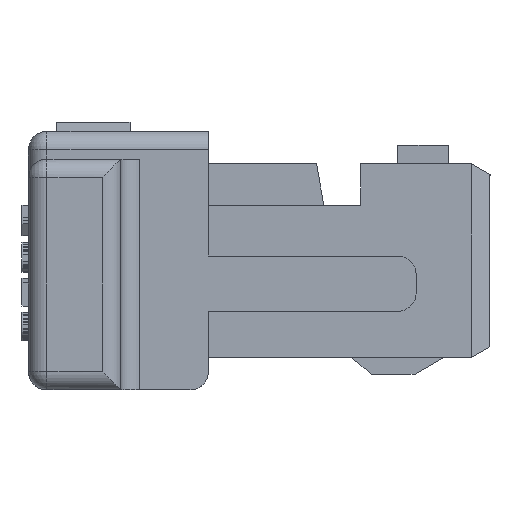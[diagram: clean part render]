
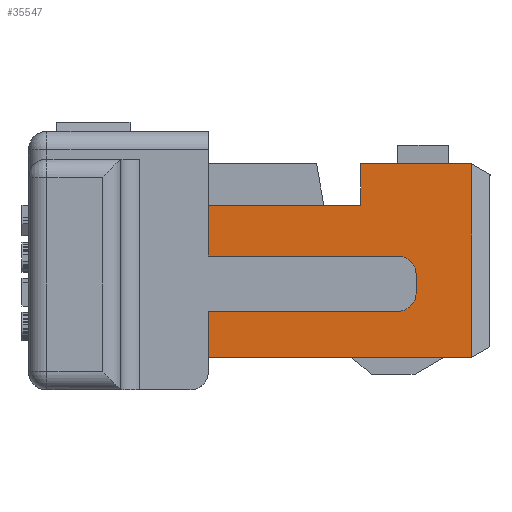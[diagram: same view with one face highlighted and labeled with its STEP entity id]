
A CAD part, left-side view. The second image highlights one B-rep face of the part: STEP entity #35547.
In plain terms, the highlighted planar face has unit normal (-1, 0, 0).
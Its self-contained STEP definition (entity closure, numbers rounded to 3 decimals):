
#8899=DIRECTION('',(0.,-1.,0.));
#8900=VECTOR('',#8899,1.65);
#8901=CARTESIAN_POINT('',(1.3,3.05,-0.9));
#8902=LINE('',#8901,#8900);
#8903=DIRECTION('',(0.,0.,1.));
#8904=VECTOR('',#8903,0.45);
#8905=CARTESIAN_POINT('',(1.3,1.4,-0.9));
#8906=LINE('',#8905,#8904);
#8907=DIRECTION('',(0.,-1.,0.));
#8908=VECTOR('',#8907,1.2);
#8909=CARTESIAN_POINT('',(1.3,1.4,-0.45));
#8910=LINE('',#8909,#8908);
#8911=DIRECTION('',(0.,0.,-1.));
#8912=VECTOR('',#8911,2.1);
#8913=CARTESIAN_POINT('',(1.3,0.2,-0.45));
#8914=LINE('',#8913,#8912);
#8915=DIRECTION('',(0.,1.,0.));
#8916=VECTOR('',#8915,2.85);
#8917=CARTESIAN_POINT('',(1.3,0.2,-2.55));
#8918=LINE('',#8917,#8916);
#8919=CARTESIAN_POINT('',(1.3,1.,-1.85));
#8920=DIRECTION('',(-1.,0.,0.));
#8921=DIRECTION('',(0.,0.,-1.));
#8922=AXIS2_PLACEMENT_3D('',#8919,#8920,#8921);
#8924=CARTESIAN_POINT('',(1.3,1.,-1.65));
#8925=DIRECTION('',(-1.,0.,0.));
#8926=DIRECTION('',(0.,-1.,0.));
#8927=AXIS2_PLACEMENT_3D('',#8924,#8925,#8926);
#8941=DIRECTION('',(0.,0.,-1.));
#8942=VECTOR('',#8941,0.55);
#8943=CARTESIAN_POINT('',(1.3,3.05,-0.9));
#8944=LINE('',#8943,#8942);
#9046=DIRECTION('',(0.,-1.,0.));
#9047=VECTOR('',#9046,2.05);
#9048=CARTESIAN_POINT('',(1.3,3.05,-1.45));
#9049=LINE('',#9048,#9047);
#9497=DIRECTION('',(0.,0.,-1.));
#9498=VECTOR('',#9497,0.5);
#9499=CARTESIAN_POINT('',(1.3,3.05,-2.05));
#9500=LINE('',#9499,#9498);
#9513=DIRECTION('',(0.,1.,0.));
#9514=VECTOR('',#9513,2.05);
#9515=CARTESIAN_POINT('',(1.3,1.,-2.05));
#9516=LINE('',#9515,#9514);
#9529=DIRECTION('',(0.,0.,-1.));
#9530=VECTOR('',#9529,0.2);
#9531=CARTESIAN_POINT('',(1.3,0.8,-1.65));
#9532=LINE('',#9531,#9530);
#16960=CARTESIAN_POINT('',(1.3,0.2,-2.55));
#16961=CARTESIAN_POINT('',(1.3,3.05,-2.55));
#16962=VERTEX_POINT('',#16960);
#16963=VERTEX_POINT('',#16961);
#17114=CARTESIAN_POINT('',(1.3,1.4,-0.9));
#17116=VERTEX_POINT('',#17114);
#17120=CARTESIAN_POINT('',(1.3,1.4,-0.45));
#17122=VERTEX_POINT('',#17120);
#17246=CARTESIAN_POINT('',(1.3,0.2,-0.45));
#17247=VERTEX_POINT('',#17246);
#17248=CARTESIAN_POINT('',(1.3,3.05,-0.9));
#17249=VERTEX_POINT('',#17248);
#17250=CARTESIAN_POINT('',(1.3,1.,-2.05));
#17251=CARTESIAN_POINT('',(1.3,0.8,-1.85));
#17252=VERTEX_POINT('',#17250);
#17253=VERTEX_POINT('',#17251);
#17254=CARTESIAN_POINT('',(1.3,0.8,-1.65));
#17255=CARTESIAN_POINT('',(1.3,1.,-1.45));
#17256=VERTEX_POINT('',#17254);
#17257=VERTEX_POINT('',#17255);
#17258=CARTESIAN_POINT('',(1.3,3.05,-1.45));
#17259=VERTEX_POINT('',#17258);
#17260=CARTESIAN_POINT('',(1.3,3.05,-2.05));
#17261=VERTEX_POINT('',#17260);
#35519=CARTESIAN_POINT('',(1.3,1.625,-1.5));
#35520=DIRECTION('',(1.,0.,0.));
#35521=DIRECTION('',(0.,1.,0.));
#35522=AXIS2_PLACEMENT_3D('',#35519,#35520,#35521);
#35523=PLANE('',#35522);
#35525=ORIENTED_EDGE('',*,*,#35524,.T.);
#35526=ORIENTED_EDGE('',*,*,#35509,.T.);
#35527=ORIENTED_EDGE('',*,*,#25650,.T.);
#35529=ORIENTED_EDGE('',*,*,#35528,.T.);
#35530=ORIENTED_EDGE('',*,*,#23075,.T.);
#35532=ORIENTED_EDGE('',*,*,#35531,.F.);
#35534=ORIENTED_EDGE('',*,*,#35533,.F.);
#35536=ORIENTED_EDGE('',*,*,#35535,.T.);
#35538=ORIENTED_EDGE('',*,*,#35537,.F.);
#35540=ORIENTED_EDGE('',*,*,#35539,.T.);
#35542=ORIENTED_EDGE('',*,*,#35541,.F.);
#35544=ORIENTED_EDGE('',*,*,#35543,.F.);
#35545=EDGE_LOOP('',(#35525,#35526,#35527,#35529,#35530,#35532,#35534,#35536,
#35538,#35540,#35542,#35544));
#35546=FACE_OUTER_BOUND('',#35545,.F.);
#8923=CIRCLE('',#8922,0.2);
#8928=CIRCLE('',#8927,0.2);
#23075=EDGE_CURVE('',#16962,#16963,#8918,.T.);
#25650=EDGE_CURVE('',#17122,#17247,#8910,.T.);
#35509=EDGE_CURVE('',#17116,#17122,#8906,.T.);
#35524=EDGE_CURVE('',#17249,#17116,#8902,.T.);
#35528=EDGE_CURVE('',#17247,#16962,#8914,.T.);
#35531=EDGE_CURVE('',#17261,#16963,#9500,.T.);
#35533=EDGE_CURVE('',#17252,#17261,#9516,.T.);
#35535=EDGE_CURVE('',#17252,#17253,#8923,.T.);
#35537=EDGE_CURVE('',#17256,#17253,#9532,.T.);
#35539=EDGE_CURVE('',#17256,#17257,#8928,.T.);
#35541=EDGE_CURVE('',#17259,#17257,#9049,.T.);
#35543=EDGE_CURVE('',#17249,#17259,#8944,.T.);
#35547=ADVANCED_FACE('',(#35546),#35523,.F.);
